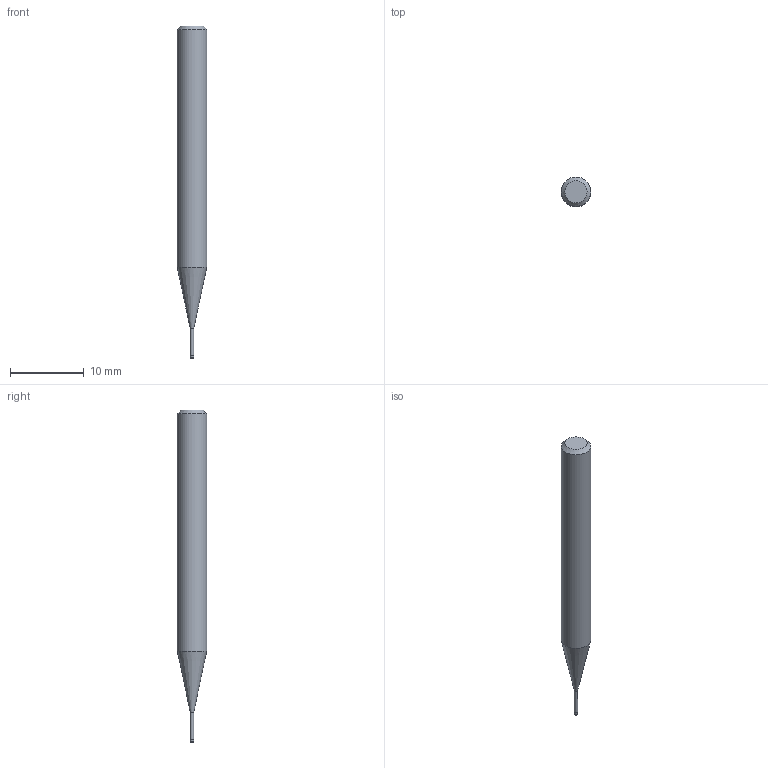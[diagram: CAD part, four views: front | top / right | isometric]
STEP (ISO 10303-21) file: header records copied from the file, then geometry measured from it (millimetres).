
FILE_DESCRIPTION((''),'2;1');
FILE_NAME('C:\Users\nsx150\AppData\Local\Temp\Mastercam 2021\3SYKECWX22\TEMP.step','2021-04-22T09:37:12',(''),(''),'STEP Write','Mastercam 2021 ... CNC Software, Inc.','');
FILE_SCHEMA(('AUTOMOTIVE_DESIGN'));
Length unit declared in the file: millimetre
Products named in the file (1): None
Bounding box: 4 x 4 x 45 mm (x, y, z)
Volume: 449.2 mm3; surface area: 485.1 mm2
Topology: 2 solids, 2 shells, 10 faces, 14 edges, 8 vertices
Faces by surface type: plane 4, cylinder 3, cone 2, torus 1
Full cylindrical faces by diameter (mm): 0.46 x1, 0.5 x1, 4 x1
Entity records: 232 total; most frequent: DIRECTION 40, CARTESIAN_POINT 28, AXIS2_PLACEMENT_3D 20, ORIENTED_EDGE 16, EDGE_LOOP 16, STYLED_ITEM 13, ADVANCED_FACE 10, FACE_BOUND 10
